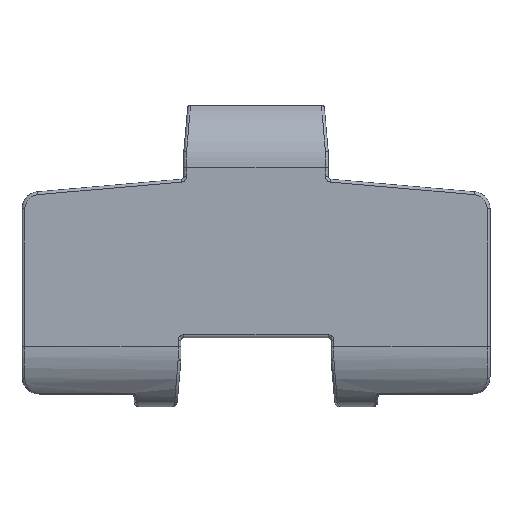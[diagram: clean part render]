
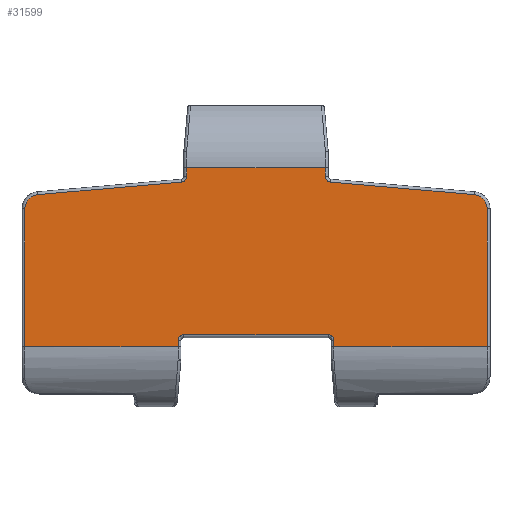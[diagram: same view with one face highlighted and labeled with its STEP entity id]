
A CAD part, front view. The second image highlights one B-rep face of the part: STEP entity #31599.
In plain terms, the highlighted planar face has unit normal (0, -1, 0).
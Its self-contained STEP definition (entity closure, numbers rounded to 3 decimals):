
#7641=DIRECTION('',(-1.,0.,0.));
#7642=VECTOR('',#7641,26.95);
#7643=CARTESIAN_POINT('',(-13.7,-8.5,-15.94));
#7644=LINE('',#7643,#7642);
#7762=DIRECTION('',(1.,0.,0.));
#7763=VECTOR('',#7762,24.4);
#7764=CARTESIAN_POINT('',(-12.2,-8.5,15.55));
#7765=LINE('',#7764,#7763);
#7769=DIRECTION('',(0.,0.,-1.));
#7770=VECTOR('',#7769,1.553);
#7771=CARTESIAN_POINT('',(12.2,-8.5,15.55));
#7772=LINE('',#7771,#7770);
#7776=CARTESIAN_POINT('',(13.2,-8.5,13.997));
#7777=DIRECTION('',(0.,-1.,0.));
#7778=DIRECTION('',(-1.,0.,0.));
#7779=AXIS2_PLACEMENT_3D('',#7776,#7777,#7778);
#7784=DIRECTION('',(0.996,0.,-0.087));
#7785=VECTOR('',#7784,25.352);
#7786=CARTESIAN_POINT('',(13.113,-8.5,13.001));
#7787=LINE('',#7786,#7785);
#7791=CARTESIAN_POINT('',(38.15,-8.5,8.301));
#7792=DIRECTION('',(0.,1.,0.));
#7793=DIRECTION('',(0.087,0.,0.996));
#7794=AXIS2_PLACEMENT_3D('',#7791,#7792,#7793);
#7799=DIRECTION('',(0.,0.,-1.));
#7800=VECTOR('',#7799,24.241);
#7801=CARTESIAN_POINT('',(40.65,-8.5,8.301));
#7802=LINE('',#7801,#7800);
#7806=DIRECTION('',(0.,0.,1.));
#7807=VECTOR('',#7806,1.083);
#7808=CARTESIAN_POINT('',(13.7,-8.5,-15.94));
#7809=LINE('',#7808,#7807);
#7813=CARTESIAN_POINT('',(12.7,-8.5,-14.857));
#7814=DIRECTION('',(0.,-1.,0.));
#7815=DIRECTION('',(1.,0.,0.));
#7816=AXIS2_PLACEMENT_3D('',#7813,#7814,#7815);
#7821=CARTESIAN_POINT('',(-12.7,-8.5,-14.857));
#7822=DIRECTION('',(0.,1.,0.));
#7823=DIRECTION('',(-1.,0.,0.));
#7824=AXIS2_PLACEMENT_3D('',#7821,#7822,#7823);
#7829=DIRECTION('',(0.,0.,1.));
#7830=VECTOR('',#7829,1.083);
#7831=CARTESIAN_POINT('',(-13.7,-8.5,-15.94));
#7832=LINE('',#7831,#7830);
#7836=DIRECTION('',(0.,0.,-1.));
#7837=VECTOR('',#7836,24.241);
#7838=CARTESIAN_POINT('',(-40.65,-8.5,8.301));
#7839=LINE('',#7838,#7837);
#7843=CARTESIAN_POINT('',(-38.15,-8.5,8.301));
#7844=DIRECTION('',(0.,-1.,0.));
#7845=DIRECTION('',(-0.087,0.,0.996));
#7846=AXIS2_PLACEMENT_3D('',#7843,#7844,#7845);
#7851=DIRECTION('',(-0.996,0.,-0.087));
#7852=VECTOR('',#7851,25.352);
#7853=CARTESIAN_POINT('',(-13.113,-8.5,13.001));
#7854=LINE('',#7853,#7852);
#7858=CARTESIAN_POINT('',(-13.2,-8.5,13.997));
#7859=DIRECTION('',(0.,1.,0.));
#7860=DIRECTION('',(1.,0.,0.));
#7861=AXIS2_PLACEMENT_3D('',#7858,#7859,#7860);
#7866=DIRECTION('',(0.,0.,-1.));
#7867=VECTOR('',#7866,1.553);
#7868=CARTESIAN_POINT('',(-12.2,-8.5,15.55));
#7869=LINE('',#7868,#7867);
#9971=DIRECTION('',(1.,0.,0.));
#9972=VECTOR('',#9971,25.4);
#9973=CARTESIAN_POINT('',(-12.7,-8.5,-13.857));
#9974=LINE('',#9973,#9972);
#10200=DIRECTION('',(1.,0.,0.));
#10201=VECTOR('',#10200,26.95);
#10202=CARTESIAN_POINT('',(13.7,-8.5,-15.94));
#10203=LINE('',#10202,#10201);
#25643=CARTESIAN_POINT('',(40.65,-8.5,-15.94));
#25644=VERTEX_POINT('',#25643);
#25647=CARTESIAN_POINT('',(40.65,-8.5,8.301));
#25648=VERTEX_POINT('',#25647);
#25651=CARTESIAN_POINT('',(38.368,-8.5,10.791));
#25652=VERTEX_POINT('',#25651);
#25655=CARTESIAN_POINT('',(13.113,-8.5,13.001));
#25656=VERTEX_POINT('',#25655);
#25659=CARTESIAN_POINT('',(12.2,-8.5,13.997));
#25660=VERTEX_POINT('',#25659);
#25663=CARTESIAN_POINT('',(12.2,-8.5,15.55));
#25664=VERTEX_POINT('',#25663);
#25677=CARTESIAN_POINT('',(13.7,-8.5,-15.94));
#25678=VERTEX_POINT('',#25677);
#25685=CARTESIAN_POINT('',(13.7,-8.5,-14.857));
#25686=CARTESIAN_POINT('',(12.7,-8.5,-13.857));
#25687=VERTEX_POINT('',#25685);
#25688=VERTEX_POINT('',#25686);
#25787=CARTESIAN_POINT('',(-40.65,-8.5,-15.94));
#25788=VERTEX_POINT('',#25787);
#25791=CARTESIAN_POINT('',(-40.65,-8.5,8.301));
#25792=VERTEX_POINT('',#25791);
#25795=CARTESIAN_POINT('',(-38.368,-8.5,10.791));
#25796=VERTEX_POINT('',#25795);
#25799=CARTESIAN_POINT('',(-13.113,-8.5,13.001));
#25800=VERTEX_POINT('',#25799);
#25803=CARTESIAN_POINT('',(-12.2,-8.5,13.997));
#25804=VERTEX_POINT('',#25803);
#25807=CARTESIAN_POINT('',(-12.2,-8.5,15.55));
#25808=VERTEX_POINT('',#25807);
#25819=CARTESIAN_POINT('',(-13.7,-8.5,-15.94));
#25820=VERTEX_POINT('',#25819);
#25827=CARTESIAN_POINT('',(-13.7,-8.5,-14.857));
#25828=CARTESIAN_POINT('',(-12.7,-8.5,-13.857));
#25829=VERTEX_POINT('',#25827);
#25830=VERTEX_POINT('',#25828);
#31560=CARTESIAN_POINT('',(0.,-8.5,15.55));
#31561=DIRECTION('',(0.,-1.,0.));
#31562=DIRECTION('',(0.,0.,-1.));
#31563=AXIS2_PLACEMENT_3D('',#31560,#31561,#31562);
#31564=PLANE('',#31563);
#31566=ORIENTED_EDGE('',*,*,#31565,.T.);
#31568=ORIENTED_EDGE('',*,*,#31567,.T.);
#31570=ORIENTED_EDGE('',*,*,#31569,.T.);
#31572=ORIENTED_EDGE('',*,*,#31571,.T.);
#31574=ORIENTED_EDGE('',*,*,#31573,.T.);
#31576=ORIENTED_EDGE('',*,*,#31575,.T.);
#31578=ORIENTED_EDGE('',*,*,#31577,.F.);
#31580=ORIENTED_EDGE('',*,*,#31579,.T.);
#31582=ORIENTED_EDGE('',*,*,#31581,.T.);
#31584=ORIENTED_EDGE('',*,*,#31583,.F.);
#31586=ORIENTED_EDGE('',*,*,#31585,.F.);
#31587=ORIENTED_EDGE('',*,*,#31374,.F.);
#31588=ORIENTED_EDGE('',*,*,#31450,.T.);
#31589=ORIENTED_EDGE('',*,*,#29874,.F.);
#31590=ORIENTED_EDGE('',*,*,#29889,.F.);
#31592=ORIENTED_EDGE('',*,*,#31591,.F.);
#31594=ORIENTED_EDGE('',*,*,#31593,.F.);
#31596=ORIENTED_EDGE('',*,*,#31595,.F.);
#31597=EDGE_LOOP('',(#31566,#31568,#31570,#31572,#31574,#31576,#31578,#31580,
#31582,#31584,#31586,#31587,#31588,#31589,#31590,#31592,#31594,#31596));
#31598=FACE_OUTER_BOUND('',#31597,.F.);
#7780=CIRCLE('',#7779,1.);
#7795=CIRCLE('',#7794,2.5);
#7817=CIRCLE('',#7816,1.);
#7825=CIRCLE('',#7824,1.);
#7847=CIRCLE('',#7846,2.5);
#7862=CIRCLE('',#7861,1.);
#29874=EDGE_CURVE('',#25792,#25788,#7839,.T.);
#29889=EDGE_CURVE('',#25796,#25792,#7847,.T.);
#31374=EDGE_CURVE('',#25820,#25829,#7832,.T.);
#31450=EDGE_CURVE('',#25820,#25788,#7644,.T.);
#31565=EDGE_CURVE('',#25808,#25664,#7765,.T.);
#31567=EDGE_CURVE('',#25664,#25660,#7772,.T.);
#31569=EDGE_CURVE('',#25660,#25656,#7780,.T.);
#31571=EDGE_CURVE('',#25656,#25652,#7787,.T.);
#31573=EDGE_CURVE('',#25652,#25648,#7795,.T.);
#31575=EDGE_CURVE('',#25648,#25644,#7802,.T.);
#31577=EDGE_CURVE('',#25678,#25644,#10203,.T.);
#31579=EDGE_CURVE('',#25678,#25687,#7809,.T.);
#31581=EDGE_CURVE('',#25687,#25688,#7817,.T.);
#31583=EDGE_CURVE('',#25830,#25688,#9974,.T.);
#31585=EDGE_CURVE('',#25829,#25830,#7825,.T.);
#31591=EDGE_CURVE('',#25800,#25796,#7854,.T.);
#31593=EDGE_CURVE('',#25804,#25800,#7862,.T.);
#31595=EDGE_CURVE('',#25808,#25804,#7869,.T.);
#31599=ADVANCED_FACE('',(#31598),#31564,.T.);
